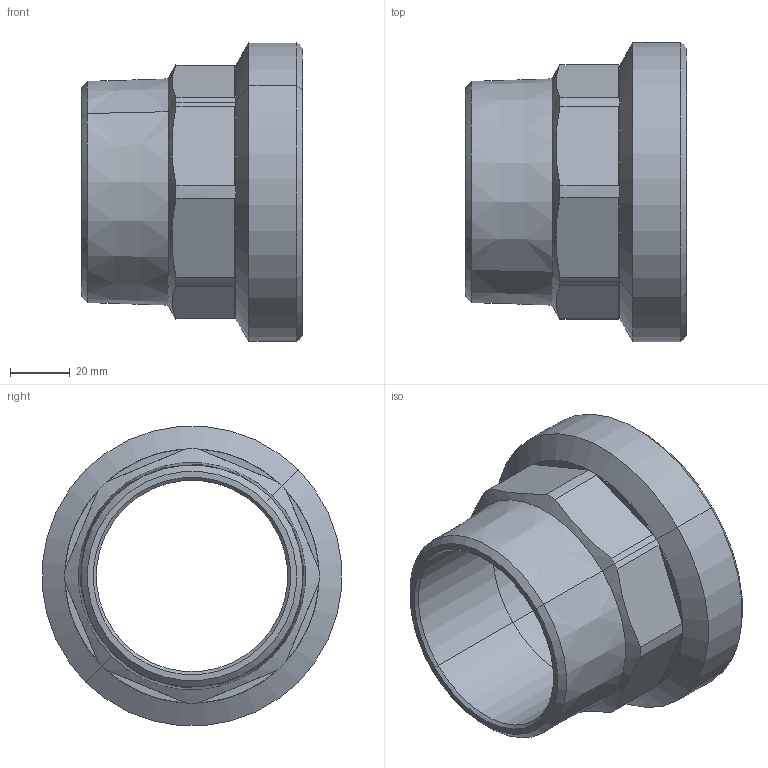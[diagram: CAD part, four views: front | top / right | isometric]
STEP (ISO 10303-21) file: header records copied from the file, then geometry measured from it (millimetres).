
FILE_DESCRIPTION((''),'2;1');
FILE_NAME('4376_212-312(1).stp','2009-08-28T10:44:30',(''),(''),'Mechanical Desktop 2009','Mechanical Desktop 2009',', , ');
FILE_SCHEMA(('CONFIG_CONTROL_DESIGN'));
Length unit declared in the file: millimetre
Products named in the file (2): 4376_212-312(1); CZﾊ姑1
Assembly tree (1 placements, depth 2):
  4376_212-312(1)
    CZﾊ姑1
Bounding box: 74 x 99.95 x 99.95 mm (x, y, z)
Volume: 148297.4 mm3; surface area: 41931.1 mm2
Topology: 1 solids, 1 shells, 46 faces, 108 edges, 64 vertices
Faces by surface type: cone 18, plane 18, cylinder 10
Entity records: 1413 total; most frequent: DIRECTION 244, CARTESIAN_POINT 236, ORIENTED_EDGE 216, EDGE_CURVE 108, AXIS2_PLACEMENT_3D 96, VERTEX_POINT 64, VECTOR 52, LINE 52
